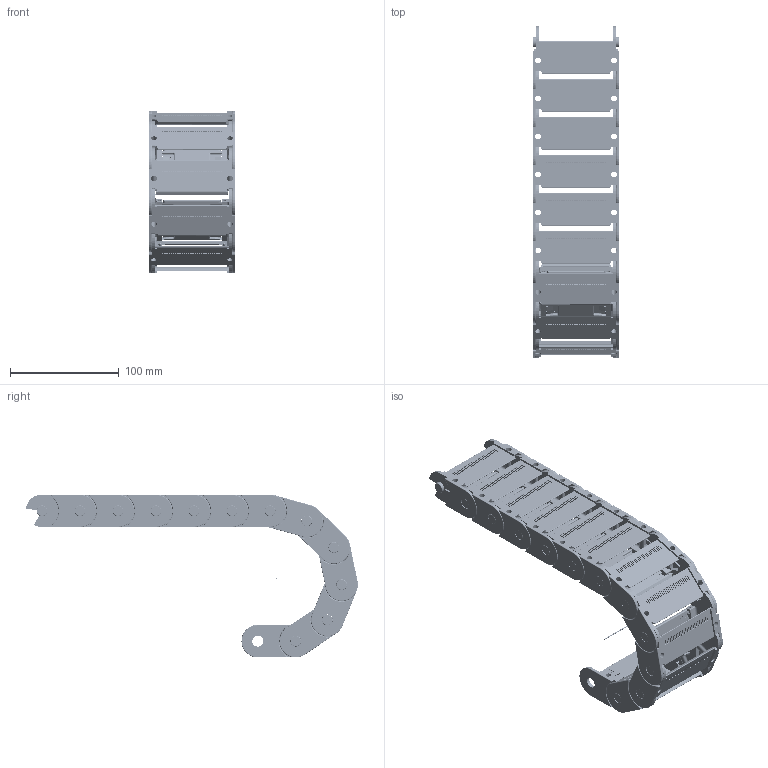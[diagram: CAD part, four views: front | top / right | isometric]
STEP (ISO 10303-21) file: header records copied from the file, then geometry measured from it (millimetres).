
FILE_DESCRIPTION((''),'2;1');
FILE_NAME('C:\Uebbing\PARAMETERKETTEN\KOLIBRI\Kol_30_080_2\Kol_30_080_2_R60.stp','2012-03-05T11:09:22',('Uebbing'),(''),'Autodesk Inventor 10','Autodesk Inventor 10','');
FILE_SCHEMA(('AUTOMOTIVE_DESIGN { 1 0 10303 214 1 1 1 1 }'));
Length unit declared in the file: millimetre
Products named in the file (5): KOLIBRI 30_080_2_PARAMETRISCH; Achse; Kol_30_080_2_Glied; Kol 30_080_2_ Lasche; Kol 30_080_0 Klappsteg
Assembly tree (15 placements, depth 3):
  KOLIBRI 30_080_2_PARAMETRISCH
    Achse
    Kol_30_080_2_Glied  x12
      Kol 30_080_2_ Lasche
      Kol 30_080_0 Klappsteg
Bounding box: 80 x 305.6 x 150 mm (x, y, z)
Volume: 264307 mm3; surface area: 214727 mm2
Topology: 25 solids, 25 shells, 11535 faces, 31288 edges, 20571 vertices
Faces by surface type: plane 5882, bspline 3228, cylinder 2185, torus 156, cone 48, sphere 36
Full cylindrical faces by diameter (mm): 1 x1, 1.166 x12, 2.048 x12, 2.8 x72, 5.1 x12, 10 x12, 10.1 x12
Entity records: 33309 total; most frequent: CARTESIAN_POINT 10057, ORIENTED_EDGE 5136, DIRECTION 4177, EDGE_CURVE 2568, VERTEX_POINT 1703, VECTOR 1693, LINE 1693, AXIS2_PLACEMENT_3D 1242
